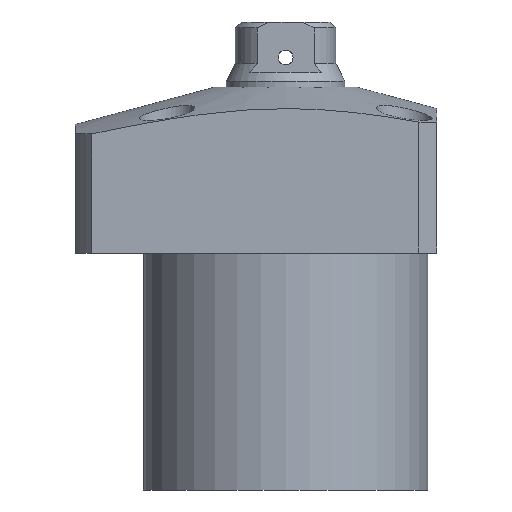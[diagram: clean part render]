
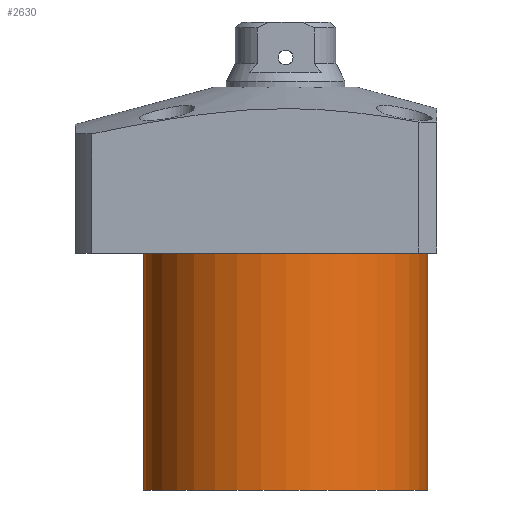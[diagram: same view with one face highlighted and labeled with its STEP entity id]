
A CAD part, front view. The second image highlights one B-rep face of the part: STEP entity #2630.
In plain terms, the highlighted cylindrical face has radius 24 mm (diameter 48 mm), a partial arc.
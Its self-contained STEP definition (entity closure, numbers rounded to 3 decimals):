
#5 = CIRCLE ( 'NONE', #864, 24. ) ;
#123 = CARTESIAN_POINT ( 'NONE',  ( 0., 0., -14. ) ) ;
#189 = DIRECTION ( 'NONE',  ( 0., 0., 1. ) ) ;
#197 = DIRECTION ( 'NONE',  ( 1., 0., 0. ) ) ;
#208 = CARTESIAN_POINT ( 'NONE',  ( 24., 0., -54. ) ) ;
#253 = CARTESIAN_POINT ( 'NONE',  ( 0., 0., -54. ) ) ;
#345 = AXIS2_PLACEMENT_3D ( 'NONE', #123, #1574, #737 ) ;
#366 = VERTEX_POINT ( 'NONE', #1304 ) ;
#519 = LINE ( 'NONE', #952, #2646 ) ;
#737 = DIRECTION ( 'NONE',  ( 1., 0., 0. ) ) ;
#794 = VERTEX_POINT ( 'NONE', #1382 ) ;
#859 = EDGE_CURVE ( 'NONE', #366, #794, #1044, .T. ) ;
#864 = AXIS2_PLACEMENT_3D ( 'NONE', #253, #1698, #1475 ) ;
#879 = EDGE_CURVE ( 'NONE', #925, #794, #519, .T. ) ;
#925 = VERTEX_POINT ( 'NONE', #2229 ) ;
#952 = CARTESIAN_POINT ( 'NONE',  ( -24., 0., -54. ) ) ;
#990 = ORIENTED_EDGE ( 'NONE', *, *, #859, .T. ) ;
#1024 = VERTEX_POINT ( 'NONE', #208 ) ;
#1042 = VECTOR ( 'NONE', #2043, 1000. ) ;
#1044 = CIRCLE ( 'NONE', #345, 24. ) ;
#1136 = ORIENTED_EDGE ( 'NONE', *, *, #1885, .T. ) ;
#1230 = CARTESIAN_POINT ( 'NONE',  ( 0., 0., -54. ) ) ;
#1304 = CARTESIAN_POINT ( 'NONE',  ( 24., 0., -14. ) ) ;
#1382 = CARTESIAN_POINT ( 'NONE',  ( -24., 0., -14. ) ) ;
#1416 = FACE_OUTER_BOUND ( 'NONE', #2000, .T. ) ;
#1475 = DIRECTION ( 'NONE',  ( -1., 0., 0. ) ) ;
#1489 = ORIENTED_EDGE ( 'NONE', *, *, #1982, .F. ) ;
#1574 = DIRECTION ( 'NONE',  ( 0., 0., -1. ) ) ;
#1698 = DIRECTION ( 'NONE',  ( 0., 0., -1. ) ) ;
#1836 = CARTESIAN_POINT ( 'NONE',  ( 24., 0., -54. ) ) ;
#1885 = EDGE_CURVE ( 'NONE', #1024, #366, #2540, .T. ) ;
#1897 = CYLINDRICAL_SURFACE ( 'NONE', #2191, 24. ) ;
#1947 = ORIENTED_EDGE ( 'NONE', *, *, #879, .F. ) ;
#1982 = EDGE_CURVE ( 'NONE', #1024, #925, #5, .T. ) ;
#2000 = EDGE_LOOP ( 'NONE', ( #1947, #1489, #1136, #990 ) ) ;
#2043 = DIRECTION ( 'NONE',  ( 0., 0., 1. ) ) ;
#2191 = AXIS2_PLACEMENT_3D ( 'NONE', #1230, #2255, #197 ) ;
#2229 = CARTESIAN_POINT ( 'NONE',  ( -24., 0., -54. ) ) ;
#2255 = DIRECTION ( 'NONE',  ( 0., 0., 1. ) ) ;
#2540 = LINE ( 'NONE', #1836, #1042 ) ;
#2630 = ADVANCED_FACE ( 'NONE', ( #1416 ), #1897, .T. ) ;
#2646 = VECTOR ( 'NONE', #189, 1000. ) ;
